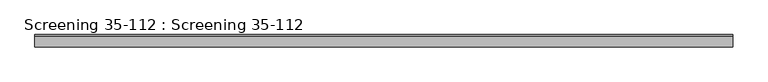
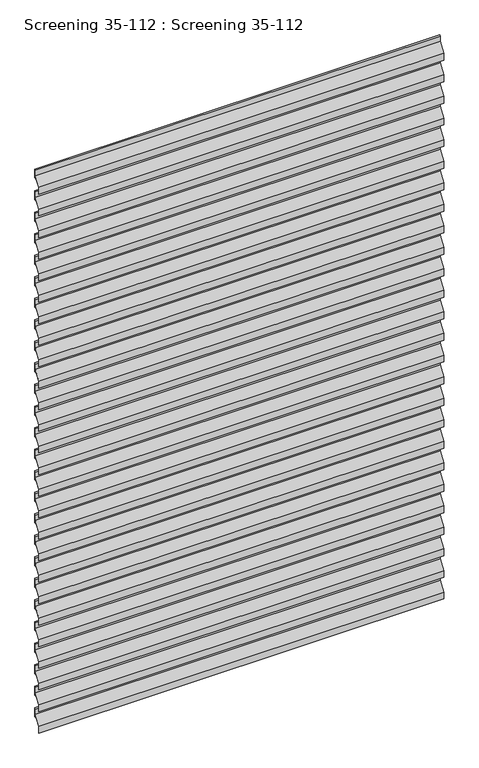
"""IFC4 building model written with IfcOpenShell, lengths in millimetres: plate geometry, Screening 35-112 : Screening 35-112."""

from ifc_helpers import new_model, si_unit, frame, origin, place, context, project, spatial, polyline, outline, extrude, source, transform, mapped, element, save


def screening_35_112_screening_35_112_460ddd10(model_context):
    return source(origin(), model_context, "Body", "SweptSolid", [
        extrude(outline(polyline([(-34.9638304, 2824.6), (-34.9638304, 2860.6958995), (-4.35, 2904.4800402), (-4.35, 2931.6451224), (0.0, 2935.9298892), (0.0, 2889.1482493), (-13.0819089, 2889.1482493), (-33.4, 2860.0767062), (-33.4, 2824.6), (-34.9638304, 2824.6)])), frame((-1000.0, 0.0, 0.0), z_axis=(1.0, 0.0, 0.0), x_axis=(0.0, 1.0, 0.0)), (0.0, 0.0, 1.0), 2000.0),
        extrude(outline(polyline([(-34.9638304, 2712.1), (-34.9638304, 2748.1958995), (-4.35, 2791.9800402), (-4.35, 2819.1451224), (0.0, 2823.4298892), (0.0, 2776.6482493), (-13.0819089, 2776.6482493), (-33.4, 2747.5767062), (-33.4, 2712.1), (-34.9638304, 2712.1)])), frame((-1000.0, 0.0, 0.0), z_axis=(1.0, 0.0, 0.0), x_axis=(0.0, 1.0, 0.0)), (0.0, 0.0, 1.0), 2000.0),
        extrude(outline(polyline([(-34.9638304, 2599.6), (-34.9638304, 2635.6958995), (-4.35, 2679.4800402), (-4.35, 2706.6451224), (0.0, 2710.9298892), (0.0, 2664.1482493), (-13.0819089, 2664.1482493), (-33.4, 2635.0767062), (-33.4, 2599.6), (-34.9638304, 2599.6)])), frame((-1000.0, 0.0, 0.0), z_axis=(1.0, 0.0, 0.0), x_axis=(0.0, 1.0, 0.0)), (0.0, 0.0, 1.0), 2000.0),
        extrude(outline(polyline([(-34.9638304, 2487.1), (-34.9638304, 2523.1958995), (-4.35, 2566.9800402), (-4.35, 2594.1451224), (0.0, 2598.4298892), (0.0, 2551.6482493), (-13.0819089, 2551.6482493), (-33.4, 2522.5767062), (-33.4, 2487.1), (-34.9638304, 2487.1)])), frame((-1000.0, 0.0, 0.0), z_axis=(1.0, 0.0, 0.0), x_axis=(0.0, 1.0, 0.0)), (0.0, 0.0, 1.0), 2000.0),
        extrude(outline(polyline([(-34.9638304, 2374.6), (-34.9638304, 2410.6958995), (-4.35, 2454.4800402), (-4.35, 2481.6451224), (0.0, 2485.9298892), (0.0, 2439.1482493), (-13.0819089, 2439.1482493), (-33.4, 2410.0767062), (-33.4, 2374.6), (-34.9638304, 2374.6)])), frame((-1000.0, 0.0, 0.0), z_axis=(1.0, 0.0, 0.0), x_axis=(0.0, 1.0, 0.0)), (0.0, 0.0, 1.0), 2000.0),
        extrude(outline(polyline([(-34.9638304, 2262.1), (-34.9638304, 2298.1958995), (-4.35, 2341.9800402), (-4.35, 2369.1451224), (0.0, 2373.4298892), (0.0, 2326.6482493), (-13.0819089, 2326.6482493), (-33.4, 2297.5767062), (-33.4, 2262.1), (-34.9638304, 2262.1)])), frame((-1000.0, 0.0, 0.0), z_axis=(1.0, 0.0, 0.0), x_axis=(0.0, 1.0, 0.0)), (0.0, 0.0, 1.0), 2000.0),
        extrude(outline(polyline([(-34.9638304, 2149.6), (-34.9638304, 2185.6958995), (-4.35, 2229.4800402), (-4.35, 2256.6451224), (0.0, 2260.9298892), (0.0, 2214.1482493), (-13.0819089, 2214.1482493), (-33.4, 2185.0767062), (-33.4, 2149.6), (-34.9638304, 2149.6)])), frame((-1000.0, 0.0, 0.0), z_axis=(1.0, 0.0, 0.0), x_axis=(0.0, 1.0, 0.0)), (0.0, 0.0, 1.0), 2000.0),
        extrude(outline(polyline([(-34.9638304, 2037.1), (-34.9638304, 2073.1958995), (-4.35, 2116.9800402), (-4.35, 2144.1451224), (0.0, 2148.4298892), (0.0, 2101.6482493), (-13.0819089, 2101.6482493), (-33.4, 2072.5767062), (-33.4, 2037.1), (-34.9638304, 2037.1)])), frame((-1000.0, 0.0, 0.0), z_axis=(1.0, 0.0, 0.0), x_axis=(0.0, 1.0, 0.0)), (0.0, 0.0, 1.0), 2000.0),
        extrude(outline(polyline([(-34.9638304, 1924.6), (-34.9638304, 1960.6958995), (-4.35, 2004.4800402), (-4.35, 2031.6451224), (0.0, 2035.9298892), (0.0, 1989.1482493), (-13.0819089, 1989.1482493), (-33.4, 1960.0767062), (-33.4, 1924.6), (-34.9638304, 1924.6)])), frame((-1000.0, 0.0, 0.0), z_axis=(1.0, 0.0, 0.0), x_axis=(0.0, 1.0, 0.0)), (0.0, 0.0, 1.0), 2000.0),
        extrude(outline(polyline([(-34.9638304, 1812.1), (-34.9638304, 1848.1958995), (-4.35, 1891.9800402), (-4.35, 1919.1451224), (0.0, 1923.4298892), (0.0, 1876.6482493), (-13.0819089, 1876.6482493), (-33.4, 1847.5767062), (-33.4, 1812.1), (-34.9638304, 1812.1)])), frame((-1000.0, 0.0, 0.0), z_axis=(1.0, 0.0, 0.0), x_axis=(0.0, 1.0, 0.0)), (0.0, 0.0, 1.0), 2000.0),
        extrude(outline(polyline([(-34.9638304, 1699.6), (-34.9638304, 1735.6958995), (-4.35, 1779.4800402), (-4.35, 1806.6451224), (0.0, 1810.9298892), (0.0, 1764.1482493), (-13.0819089, 1764.1482493), (-33.4, 1735.0767062), (-33.4, 1699.6), (-34.9638304, 1699.6)])), frame((-1000.0, 0.0, 0.0), z_axis=(1.0, 0.0, 0.0), x_axis=(0.0, 1.0, 0.0)), (0.0, 0.0, 1.0), 2000.0),
        extrude(outline(polyline([(-34.9638304, 1587.1), (-34.9638304, 1623.1958995), (-4.35, 1666.9800402), (-4.35, 1694.1451224), (0.0, 1698.4298892), (0.0, 1651.6482493), (-13.0819089, 1651.6482493), (-33.4, 1622.5767062), (-33.4, 1587.1), (-34.9638304, 1587.1)])), frame((-1000.0, 0.0, 0.0), z_axis=(1.0, 0.0, 0.0), x_axis=(0.0, 1.0, 0.0)), (0.0, 0.0, 1.0), 2000.0),
        extrude(outline(polyline([(-34.9638304, 1474.6), (-34.9638304, 1510.6958995), (-4.35, 1554.4800402), (-4.35, 1581.6451224), (0.0, 1585.9298892), (0.0, 1539.1482493), (-13.0819089, 1539.1482493), (-33.4, 1510.0767062), (-33.4, 1474.6), (-34.9638304, 1474.6)])), frame((-1000.0, 0.0, 0.0), z_axis=(1.0, 0.0, 0.0), x_axis=(0.0, 1.0, 0.0)), (0.0, 0.0, 1.0), 2000.0),
        extrude(outline(polyline([(-34.9638304, 1362.1), (-34.9638304, 1398.1958995), (-4.35, 1441.9800402), (-4.35, 1469.1451224), (0.0, 1473.4298892), (0.0, 1426.6482493), (-13.0819089, 1426.6482493), (-33.4, 1397.5767062), (-33.4, 1362.1), (-34.9638304, 1362.1)])), frame((-1000.0, 0.0, 0.0), z_axis=(1.0, 0.0, 0.0), x_axis=(0.0, 1.0, 0.0)), (0.0, 0.0, 1.0), 2000.0),
        extrude(outline(polyline([(-34.9638304, 1249.6), (-34.9638304, 1285.6958995), (-4.35, 1329.4800402), (-4.35, 1356.6451224), (0.0, 1360.9298892), (0.0, 1314.1482493), (-13.0819089, 1314.1482493), (-33.4, 1285.0767062), (-33.4, 1249.6), (-34.9638304, 1249.6)])), frame((-1000.0, 0.0, 0.0), z_axis=(1.0, 0.0, 0.0), x_axis=(0.0, 1.0, 0.0)), (0.0, 0.0, 1.0), 2000.0),
        extrude(outline(polyline([(-34.9638304, 1137.1), (-34.9638304, 1173.1958995), (-4.35, 1216.9800402), (-4.35, 1244.1451224), (0.0, 1248.4298892), (0.0, 1201.6482493), (-13.0819089, 1201.6482493), (-33.4, 1172.5767062), (-33.4, 1137.1), (-34.9638304, 1137.1)])), frame((-1000.0, 0.0, 0.0), z_axis=(1.0, 0.0, 0.0), x_axis=(0.0, 1.0, 0.0)), (0.0, 0.0, 1.0), 2000.0),
        extrude(outline(polyline([(-34.9638304, 1024.6), (-34.9638304, 1060.6958995), (-4.35, 1104.4800402), (-4.35, 1131.6451224), (0.0, 1135.9298892), (0.0, 1089.1482493), (-13.0819089, 1089.1482493), (-33.4, 1060.0767062), (-33.4, 1024.6), (-34.9638304, 1024.6)])), frame((-1000.0, 0.0, 0.0), z_axis=(1.0, 0.0, 0.0), x_axis=(0.0, 1.0, 0.0)), (0.0, 0.0, 1.0), 2000.0),
        extrude(outline(polyline([(-34.9638304, 912.1), (-34.9638304, 948.1958995), (-4.35, 991.9800402), (-4.35, 1019.1451224), (0.0, 1023.4298892), (0.0, 976.6482493), (-13.0819089, 976.6482493), (-33.4, 947.5767062), (-33.4, 912.1), (-34.9638304, 912.1)])), frame((-1000.0, 0.0, 0.0), z_axis=(1.0, 0.0, 0.0), x_axis=(0.0, 1.0, 0.0)), (0.0, 0.0, 1.0), 2000.0),
        extrude(outline(polyline([(-34.9638304, 799.6), (-34.9638304, 835.6958995), (-4.35, 879.4800402), (-4.35, 906.6451224), (0.0, 910.9298892), (0.0, 864.1482493), (-13.0819089, 864.1482493), (-33.4, 835.0767062), (-33.4, 799.6), (-34.9638304, 799.6)])), frame((-1000.0, 0.0, 0.0), z_axis=(1.0, 0.0, 0.0), x_axis=(0.0, 1.0, 0.0)), (0.0, 0.0, 1.0), 2000.0),
        extrude(outline(polyline([(-34.9638304, 687.1), (-34.9638304, 723.1958995), (-4.35, 766.9800402), (-4.35, 794.1451224), (0.0, 798.4298892), (0.0, 751.6482493), (-13.0819089, 751.6482493), (-33.4, 722.5767062), (-33.4, 687.1), (-34.9638304, 687.1)])), frame((-1000.0, 0.0, 0.0), z_axis=(1.0, 0.0, 0.0), x_axis=(0.0, 1.0, 0.0)), (0.0, 0.0, 1.0), 2000.0),
        extrude(outline(polyline([(-34.9638304, 574.6), (-34.9638304, 610.6958995), (-4.35, 654.4800402), (-4.35, 681.6451224), (0.0, 685.9298892), (0.0, 639.1482493), (-13.0819089, 639.1482493), (-33.4, 610.0767062), (-33.4, 574.6), (-34.9638304, 574.6)])), frame((-1000.0, 0.0, 0.0), z_axis=(1.0, 0.0, 0.0), x_axis=(0.0, 1.0, 0.0)), (0.0, 0.0, 1.0), 2000.0),
        extrude(outline(polyline([(-34.9638304, 462.1), (-34.9638304, 498.1958995), (-4.35, 541.9800402), (-4.35, 569.1451224), (0.0, 573.4298892), (0.0, 526.6482493), (-13.0819089, 526.6482493), (-33.4, 497.5767062), (-33.4, 462.1), (-34.9638304, 462.1)])), frame((-1000.0, 0.0, 0.0), z_axis=(1.0, 0.0, 0.0), x_axis=(0.0, 1.0, 0.0)), (0.0, 0.0, 1.0), 2000.0),
        extrude(outline(polyline([(-34.9638304, 349.6), (-34.9638304, 385.6958995), (-4.35, 429.4800402), (-4.35, 456.6451224), (0.0, 460.9298892), (0.0, 414.1482493), (-13.0819089, 414.1482493), (-33.4, 385.0767062), (-33.4, 349.6), (-34.9638304, 349.6)])), frame((-1000.0, 0.0, 0.0), z_axis=(1.0, 0.0, 0.0), x_axis=(0.0, 1.0, 0.0)), (0.0, 0.0, 1.0), 2000.0),
        extrude(outline(polyline([(-34.9638304, 237.1), (-34.9638304, 273.1958995), (-4.35, 316.9800402), (-4.35, 344.1451224), (0.0, 348.4298892), (0.0, 301.6482493), (-13.0819089, 301.6482493), (-33.4, 272.5767062), (-33.4, 237.1), (-34.9638304, 237.1)])), frame((-1000.0, 0.0, 0.0), z_axis=(1.0, 0.0, 0.0), x_axis=(0.0, 1.0, 0.0)), (0.0, 0.0, 1.0), 2000.0),
        extrude(outline(polyline([(-34.9638304, 124.6), (-34.9638304, 160.6958995), (-4.35, 204.4800402), (-4.35, 231.6451224), (0.0, 235.9298892), (0.0, 189.1482493), (-13.0819089, 189.1482493), (-33.4, 160.0767062), (-33.4, 124.6), (-34.9638304, 124.6)])), frame((-1000.0, 0.0, 0.0), z_axis=(1.0, 0.0, 0.0), x_axis=(0.0, 1.0, 0.0)), (0.0, 0.0, 1.0), 2000.0),
        extrude(outline(polyline([(-34.9638304, 12.1), (-34.9638304, 48.1958995), (-4.35, 91.9800402), (-4.35, 119.1451224), (0.0, 123.4298892), (0.0, 76.6482493), (-13.0819089, 76.6482493), (-33.4, 47.5767062), (-33.4, 12.1), (-34.9638304, 12.1)])), frame((-1000.0, 0.0, 0.0), z_axis=(1.0, 0.0, 0.0), x_axis=(0.0, 1.0, 0.0)), (0.0, 0.0, 1.0), 2000.0),
    ])


if __name__ == "__main__":
    model = new_model("IFC4")
    model_context = context("Model", 3, world=origin())
    ifc_project = project(units=[si_unit("LENGTHUNIT", "METRE", prefix="MILLI")], contexts=[model_context])
    site = spatial("IfcSite", under=ifc_project)
    building = spatial("IfcBuilding", under=site)
    placement = place(None, origin())
    screening_35_112_screening_35_112_shape = screening_35_112_screening_35_112_460ddd10(model_context)
    element("IfcPlate", 1, ObjectType="Screening 35-112 : Screening 35-112", at=placement, inside=building, context=model_context, shape_type="MappedRepresentation", body=[
        mapped(screening_35_112_screening_35_112_shape, transform((0.0, 0.0, 0.0), x_axis=(1.0, 0.0, 0.0), y_axis=(0.0, 1.0, 0.0), z_axis=(0.0, 0.0, 1.0))),
    ])
    save(model, "model.ifc")
